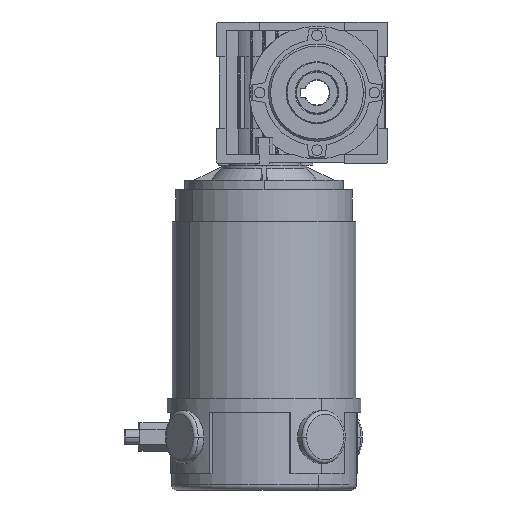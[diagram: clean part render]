
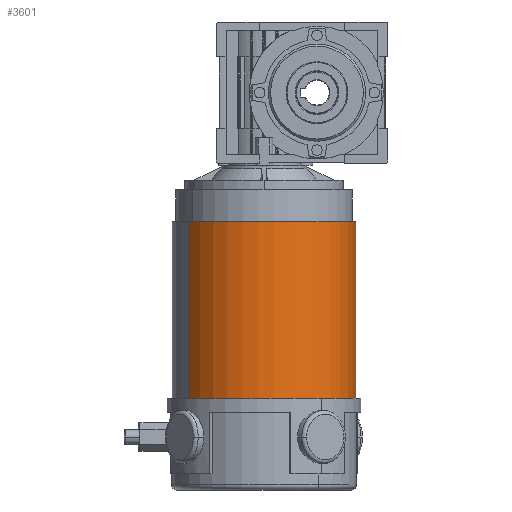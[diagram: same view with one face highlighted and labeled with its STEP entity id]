
A CAD part, left-side view. The second image highlights one B-rep face of the part: STEP entity #3601.
In plain terms, the highlighted cylindrical face has radius 52 mm (diameter 104 mm), a partial arc.
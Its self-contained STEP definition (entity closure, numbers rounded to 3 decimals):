
#113 = CARTESIAN_POINT ( 'NONE',  ( 52., 0., -18. ) ) ;
#498 = DIRECTION ( 'NONE',  ( 0., 0., 1. ) ) ;
#2031 = AXIS2_PLACEMENT_3D ( 'NONE', #11492, #498, #20675 ) ;
#2357 = EDGE_CURVE ( 'NONE', #25406, #24798, #16165, .T. ) ;
#2680 = VERTEX_POINT ( 'NONE', #24887 ) ;
#2982 = DIRECTION ( 'NONE',  ( 1., 0., 0. ) ) ;
#3601 = ADVANCED_FACE ( 'NONE', ( #25254 ), #11467, .T. ) ;
#4483 = ORIENTED_EDGE ( 'NONE', *, *, #8394, .T. ) ;
#4871 = CIRCLE ( 'NONE', #2031, 52. ) ;
#5333 = CARTESIAN_POINT ( 'NONE',  ( -52., 0., -18. ) ) ;
#5574 = VERTEX_POINT ( 'NONE', #113 ) ;
#5646 = ORIENTED_EDGE ( 'NONE', *, *, #23922, .F. ) ;
#5680 = LINE ( 'NONE', #14723, #26815 ) ;
#8394 = EDGE_CURVE ( 'NONE', #24798, #2680, #23651, .T. ) ;
#10350 = EDGE_LOOP ( 'NONE', ( #5646, #12039, #4483, #12571 ) ) ;
#11285 = DIRECTION ( 'NONE',  ( 0., 0., -1. ) ) ;
#11467 = CYLINDRICAL_SURFACE ( 'NONE', #27654, 52. ) ;
#11492 = CARTESIAN_POINT ( 'NONE',  ( 0., 0., -18. ) ) ;
#12039 = ORIENTED_EDGE ( 'NONE', *, *, #2357, .T. ) ;
#12571 = ORIENTED_EDGE ( 'NONE', *, *, #27954, .F. ) ;
#14723 = CARTESIAN_POINT ( 'NONE',  ( 52., 0., -370.199 ) ) ;
#16165 = LINE ( 'NONE', #20621, #26281 ) ;
#16449 = CARTESIAN_POINT ( 'NONE',  ( 0., 0., -118. ) ) ;
#18272 = DIRECTION ( 'NONE',  ( 0., 0., -1. ) ) ;
#18670 = DIRECTION ( 'NONE',  ( 0., 0., 1. ) ) ;
#20463 = CARTESIAN_POINT ( 'NONE',  ( -52., 0., -118. ) ) ;
#20621 = CARTESIAN_POINT ( 'NONE',  ( -52., 0., -370.199 ) ) ;
#20675 = DIRECTION ( 'NONE',  ( 0., 1., 0. ) ) ;
#21743 = AXIS2_PLACEMENT_3D ( 'NONE', #16449, #18670, #27734 ) ;
#23651 = CIRCLE ( 'NONE', #21743, 52. ) ;
#23780 = DIRECTION ( 'NONE',  ( 0., 0., -1. ) ) ;
#23922 = EDGE_CURVE ( 'NONE', #25406, #5574, #4871, .T. ) ;
#24798 = VERTEX_POINT ( 'NONE', #20463 ) ;
#24887 = CARTESIAN_POINT ( 'NONE',  ( 52., 0., -118. ) ) ;
#25111 = CARTESIAN_POINT ( 'NONE',  ( 0., 0., -370.199 ) ) ;
#25254 = FACE_OUTER_BOUND ( 'NONE', #10350, .T. ) ;
#25406 = VERTEX_POINT ( 'NONE', #5333 ) ;
#26281 = VECTOR ( 'NONE', #11285, 1000. ) ;
#26815 = VECTOR ( 'NONE', #23780, 1000. ) ;
#27654 = AXIS2_PLACEMENT_3D ( 'NONE', #25111, #18272, #2982 ) ;
#27734 = DIRECTION ( 'NONE',  ( 0., -1., 0. ) ) ;
#27954 = EDGE_CURVE ( 'NONE', #5574, #2680, #5680, .T. ) ;
